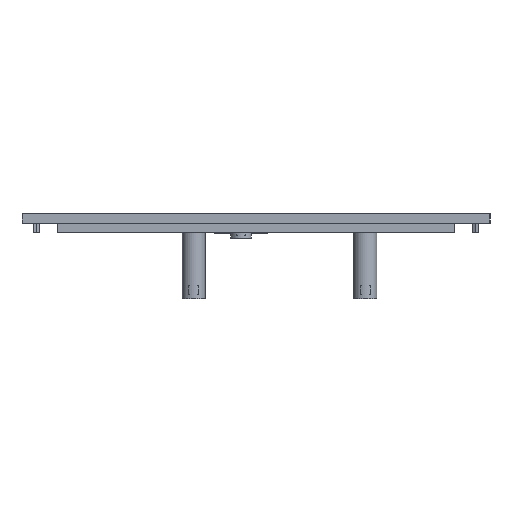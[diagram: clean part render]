
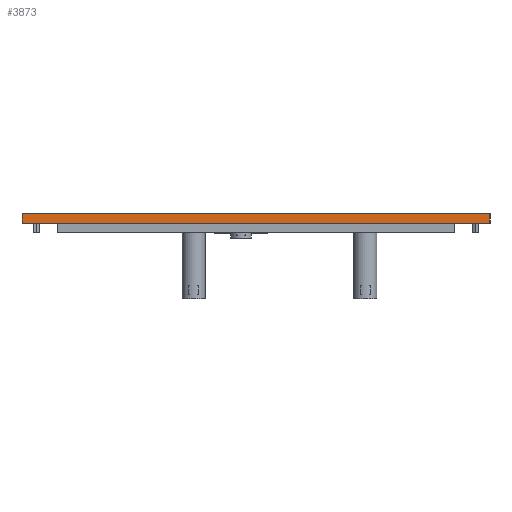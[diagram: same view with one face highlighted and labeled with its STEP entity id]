
A CAD part, left-side view. The second image highlights one B-rep face of the part: STEP entity #3873.
In plain terms, the highlighted planar face has unit normal (-1, 0, 0).
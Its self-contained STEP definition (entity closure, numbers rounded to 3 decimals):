
#187 = PLANE('',#188);
#188 = AXIS2_PLACEMENT_3D('',#189,#190,#191);
#189 = CARTESIAN_POINT('',(0.,0.,24.1));
#190 = DIRECTION('',(0.,0.,1.));
#191 = DIRECTION('',(1.,0.,-0.));
#792 = EDGE_CURVE('',#793,#795,#797,.T.);
#793 = VERTEX_POINT('',#794);
#794 = CARTESIAN_POINT('',(0.,0.,24.1));
#795 = VERTEX_POINT('',#796);
#796 = CARTESIAN_POINT('',(0.,150.,24.1));
#797 = SURFACE_CURVE('',#798,(#802,#809),.PCURVE_S1.);
#798 = LINE('',#799,#800);
#799 = CARTESIAN_POINT('',(0.,0.,24.1));
#800 = VECTOR('',#801,1.);
#801 = DIRECTION('',(-0.,1.,0.));
#802 = PCURVE('',#187,#803);
#803 = DEFINITIONAL_REPRESENTATION('',(#804),#808);
#804 = LINE('',#805,#806);
#805 = CARTESIAN_POINT('',(0.,0.));
#806 = VECTOR('',#807,1.);
#807 = DIRECTION('',(0.,1.));
#808 = ( GEOMETRIC_REPRESENTATION_CONTEXT(2) 
PARAMETRIC_REPRESENTATION_CONTEXT() REPRESENTATION_CONTEXT('2D SPACE',''
  ) );
#809 = PCURVE('',#810,#815);
#810 = PLANE('',#811);
#811 = AXIS2_PLACEMENT_3D('',#812,#813,#814);
#812 = CARTESIAN_POINT('',(0.,0.,24.1));
#813 = DIRECTION('',(1.,0.,-0.));
#814 = DIRECTION('',(0.,0.,1.));
#815 = DEFINITIONAL_REPRESENTATION('',(#816),#820);
#816 = LINE('',#817,#818);
#817 = CARTESIAN_POINT('',(0.,0.));
#818 = VECTOR('',#819,1.);
#819 = DIRECTION('',(0.,-1.));
#820 = ( GEOMETRIC_REPRESENTATION_CONTEXT(2) 
PARAMETRIC_REPRESENTATION_CONTEXT() REPRESENTATION_CONTEXT('2D SPACE',''
  ) );
#838 = PLANE('',#839);
#839 = AXIS2_PLACEMENT_3D('',#840,#841,#842);
#840 = CARTESIAN_POINT('',(0.,0.,24.1));
#841 = DIRECTION('',(-0.,1.,0.));
#842 = DIRECTION('',(0.,0.,1.));
#892 = PLANE('',#893);
#893 = AXIS2_PLACEMENT_3D('',#894,#895,#896);
#894 = CARTESIAN_POINT('',(0.,150.,24.1));
#895 = DIRECTION('',(-0.,1.,0.));
#896 = DIRECTION('',(0.,0.,1.));
#3873 = ADVANCED_FACE('',(#3874),#810,.F.);
#3874 = FACE_BOUND('',#3875,.F.);
#3875 = EDGE_LOOP('',(#3876,#3899,#3900,#3923));
#3876 = ORIENTED_EDGE('',*,*,#3877,.F.);
#3877 = EDGE_CURVE('',#793,#3878,#3880,.T.);
#3878 = VERTEX_POINT('',#3879);
#3879 = CARTESIAN_POINT('',(0.,0.,27.3));
#3880 = SURFACE_CURVE('',#3881,(#3885,#3892),.PCURVE_S1.);
#3881 = LINE('',#3882,#3883);
#3882 = CARTESIAN_POINT('',(0.,0.,24.1));
#3883 = VECTOR('',#3884,1.);
#3884 = DIRECTION('',(0.,0.,1.));
#3885 = PCURVE('',#810,#3886);
#3886 = DEFINITIONAL_REPRESENTATION('',(#3887),#3891);
#3887 = LINE('',#3888,#3889);
#3888 = CARTESIAN_POINT('',(0.,0.));
#3889 = VECTOR('',#3890,1.);
#3890 = DIRECTION('',(1.,0.));
#3891 = ( GEOMETRIC_REPRESENTATION_CONTEXT(2) 
PARAMETRIC_REPRESENTATION_CONTEXT() REPRESENTATION_CONTEXT('2D SPACE',''
  ) );
#3892 = PCURVE('',#838,#3893);
#3893 = DEFINITIONAL_REPRESENTATION('',(#3894),#3898);
#3894 = LINE('',#3895,#3896);
#3895 = CARTESIAN_POINT('',(0.,0.));
#3896 = VECTOR('',#3897,1.);
#3897 = DIRECTION('',(1.,0.));
#3898 = ( GEOMETRIC_REPRESENTATION_CONTEXT(2) 
PARAMETRIC_REPRESENTATION_CONTEXT() REPRESENTATION_CONTEXT('2D SPACE',''
  ) );
#3899 = ORIENTED_EDGE('',*,*,#792,.T.);
#3900 = ORIENTED_EDGE('',*,*,#3901,.T.);
#3901 = EDGE_CURVE('',#795,#3902,#3904,.T.);
#3902 = VERTEX_POINT('',#3903);
#3903 = CARTESIAN_POINT('',(0.,150.,27.3));
#3904 = SURFACE_CURVE('',#3905,(#3909,#3916),.PCURVE_S1.);
#3905 = LINE('',#3906,#3907);
#3906 = CARTESIAN_POINT('',(0.,150.,24.1));
#3907 = VECTOR('',#3908,1.);
#3908 = DIRECTION('',(0.,0.,1.));
#3909 = PCURVE('',#810,#3910);
#3910 = DEFINITIONAL_REPRESENTATION('',(#3911),#3915);
#3911 = LINE('',#3912,#3913);
#3912 = CARTESIAN_POINT('',(0.,-150.));
#3913 = VECTOR('',#3914,1.);
#3914 = DIRECTION('',(1.,0.));
#3915 = ( GEOMETRIC_REPRESENTATION_CONTEXT(2) 
PARAMETRIC_REPRESENTATION_CONTEXT() REPRESENTATION_CONTEXT('2D SPACE',''
  ) );
#3916 = PCURVE('',#892,#3917);
#3917 = DEFINITIONAL_REPRESENTATION('',(#3918),#3922);
#3918 = LINE('',#3919,#3920);
#3919 = CARTESIAN_POINT('',(0.,0.));
#3920 = VECTOR('',#3921,1.);
#3921 = DIRECTION('',(1.,0.));
#3922 = ( GEOMETRIC_REPRESENTATION_CONTEXT(2) 
PARAMETRIC_REPRESENTATION_CONTEXT() REPRESENTATION_CONTEXT('2D SPACE',''
  ) );
#3923 = ORIENTED_EDGE('',*,*,#3924,.F.);
#3924 = EDGE_CURVE('',#3878,#3902,#3925,.T.);
#3925 = SURFACE_CURVE('',#3926,(#3930,#3937),.PCURVE_S1.);
#3926 = LINE('',#3927,#3928);
#3927 = CARTESIAN_POINT('',(0.,0.,27.3));
#3928 = VECTOR('',#3929,1.);
#3929 = DIRECTION('',(-0.,1.,0.));
#3930 = PCURVE('',#810,#3931);
#3931 = DEFINITIONAL_REPRESENTATION('',(#3932),#3936);
#3932 = LINE('',#3933,#3934);
#3933 = CARTESIAN_POINT('',(3.2,0.));
#3934 = VECTOR('',#3935,1.);
#3935 = DIRECTION('',(0.,-1.));
#3936 = ( GEOMETRIC_REPRESENTATION_CONTEXT(2) 
PARAMETRIC_REPRESENTATION_CONTEXT() REPRESENTATION_CONTEXT('2D SPACE',''
  ) );
#3937 = PCURVE('',#3938,#3943);
#3938 = PLANE('',#3939);
#3939 = AXIS2_PLACEMENT_3D('',#3940,#3941,#3942);
#3940 = CARTESIAN_POINT('',(0.,0.,27.3));
#3941 = DIRECTION('',(0.,0.,1.));
#3942 = DIRECTION('',(1.,0.,-0.));
#3943 = DEFINITIONAL_REPRESENTATION('',(#3944),#3948);
#3944 = LINE('',#3945,#3946);
#3945 = CARTESIAN_POINT('',(0.,0.));
#3946 = VECTOR('',#3947,1.);
#3947 = DIRECTION('',(0.,1.));
#3948 = ( GEOMETRIC_REPRESENTATION_CONTEXT(2) 
PARAMETRIC_REPRESENTATION_CONTEXT() REPRESENTATION_CONTEXT('2D SPACE',''
  ) );
